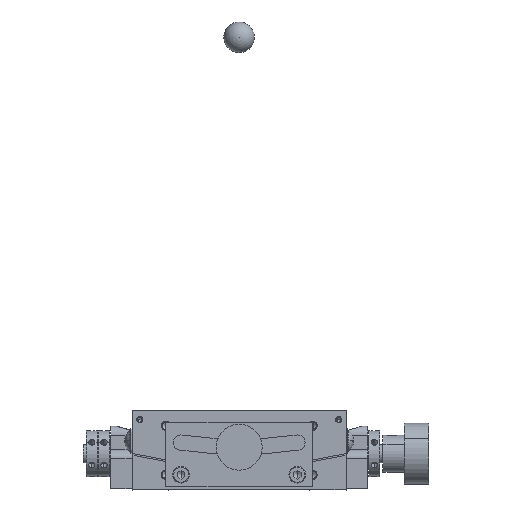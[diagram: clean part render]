
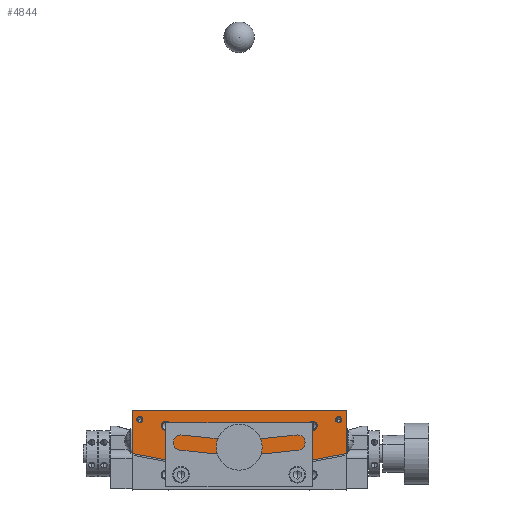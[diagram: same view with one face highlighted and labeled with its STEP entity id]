
A CAD part, front view. The second image highlights one B-rep face of the part: STEP entity #4844.
In plain terms, the highlighted planar face has unit normal (0, -1, 0) as drawn and (-1, 0, 0) by its records, which use the part's own axes.
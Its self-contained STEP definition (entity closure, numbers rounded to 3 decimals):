
#1241 = ORIENTED_EDGE ( 'NONE', *, *, #5952, .F. ) ;
#1242 = ORIENTED_EDGE ( 'NONE', *, *, #36356, .F. ) ;
#1243 = ORIENTED_EDGE ( 'NONE', *, *, #38115, .F. ) ;
#1244 = ORIENTED_EDGE ( 'NONE', *, *, #5953, .F. ) ;
#1245 = ORIENTED_EDGE ( 'NONE', *, *, #37956, .F. ) ;
#1246 = ORIENTED_EDGE ( 'NONE', *, *, #5954, .F. ) ;
#1247 = ORIENTED_EDGE ( 'NONE', *, *, #37859, .F. ) ;
#1248 = ORIENTED_EDGE ( 'NONE', *, *, #5955, .F. ) ;
#1249 = ORIENTED_EDGE ( 'NONE', *, *, #5956, .F. ) ;
#1250 = ORIENTED_EDGE ( 'NONE', *, *, #5957, .F. ) ;
#1251 = ORIENTED_EDGE ( 'NONE', *, *, #5958, .F. ) ;
#1252 = ORIENTED_EDGE ( 'NONE', *, *, #5959, .F. ) ;
#1253 = ORIENTED_EDGE ( 'NONE', *, *, #38063, .F. ) ;
#1254 = ORIENTED_EDGE ( 'NONE', *, *, #5960, .F. ) ;
#3174 = AXIS2_PLACEMENT_3D ( 'NONE', #44627, #44628, #44629 ) ;
#3178 = CIRCLE ( 'NONE', #3174, 1. ) ;
#3180 = VECTOR ( 'NONE', #44626, 1000. ) ;
#3181 = VECTOR ( 'NONE', #44623, 1000. ) ;
#3183 = AXIS2_PLACEMENT_3D ( 'NONE', #44617, #44618, #44619 ) ;
#3186 = VECTOR ( 'NONE', #44620, 1000. ) ;
#3188 = AXIS2_PLACEMENT_3D ( 'NONE', #44614, #44615, #44616 ) ;
#3191 = AXIS2_PLACEMENT_3D ( 'NONE', #44610, #44611, #44612 ) ;
#3193 = CIRCLE ( 'NONE', #3183, 140.5 ) ;
#3195 = AXIS2_PLACEMENT_3D ( 'NONE', #44607, #44608, #44609 ) ;
#3198 = CIRCLE ( 'NONE', #3188, 1.5 ) ;
#3200 = CIRCLE ( 'NONE', #3191, 1.5 ) ;
#3201 = AXIS2_PLACEMENT_3D ( 'NONE', #44604, #44605, #44606 ) ;
#3203 = CIRCLE ( 'NONE', #3195, 1. ) ;
#3205 = CIRCLE ( 'NONE', #3201, 5. ) ;
#4844 = ADVANCED_FACE ( 'NONE', ( #18057, #18043, #18063, #18067, #18055, #18059 ), #18071, .F. ) ;
#5952 = EDGE_CURVE ( 'NONE', #19721, #19723, #3205, .T. ) ;
#5953 = EDGE_CURVE ( 'NONE', #9188, #9189, #3203, .T. ) ;
#5954 = EDGE_CURVE ( 'NONE', #9163, #9164, #3200, .T. ) ;
#5955 = EDGE_CURVE ( 'NONE', #9149, #9150, #3198, .T. ) ;
#5956 = EDGE_CURVE ( 'NONE', #8832, #8829, #3193, .T. ) ;
#5957 = EDGE_CURVE ( 'NONE', #8829, #8886, #44603, .T. ) ;
#5958 = EDGE_CURVE ( 'NONE', #8886, #8844, #44621, .T. ) ;
#5959 = EDGE_CURVE ( 'NONE', #8844, #8832, #44624, .T. ) ;
#5960 = EDGE_CURVE ( 'NONE', #9180, #9181, #3178, .T. ) ;
#8829 = VERTEX_POINT ( 'NONE', #66567 ) ;
#8832 = VERTEX_POINT ( 'NONE', #66570 ) ;
#8844 = VERTEX_POINT ( 'NONE', #66582 ) ;
#8886 = VERTEX_POINT ( 'NONE', #66624 ) ;
#9149 = VERTEX_POINT ( 'NONE', #53525 ) ;
#9150 = VERTEX_POINT ( 'NONE', #53527 ) ;
#9163 = VERTEX_POINT ( 'NONE', #53553 ) ;
#9164 = VERTEX_POINT ( 'NONE', #53555 ) ;
#9180 = VERTEX_POINT ( 'NONE', #53587 ) ;
#9181 = VERTEX_POINT ( 'NONE', #53589 ) ;
#9188 = VERTEX_POINT ( 'NONE', #53603 ) ;
#9189 = VERTEX_POINT ( 'NONE', #53605 ) ;
#10080 = CARTESIAN_POINT ( 'NONE',  ( -35., -5., -12. ) ) ;
#10081 = CARTESIAN_POINT ( 'NONE',  ( -35., 5., -12. ) ) ;
#11986 = EDGE_LOOP ( 'NONE', ( #1242, #1241 ) ) ;
#11988 = EDGE_LOOP ( 'NONE', ( #1248, #1247 ) ) ;
#11989 = EDGE_LOOP ( 'NONE', ( #1254, #1253 ) ) ;
#11990 = EDGE_LOOP ( 'NONE', ( #1246, #1245 ) ) ;
#12003 = EDGE_LOOP ( 'NONE', ( #1244, #1243 ) ) ;
#12052 = EDGE_LOOP ( 'NONE', ( #1252, #1251, #1250, #1249 ) ) ;
#18043 = FACE_OUTER_BOUND ( 'NONE', #12052, .T. ) ;
#18055 = FACE_BOUND ( 'NONE', #12003, .T. ) ;
#18057 = FACE_BOUND ( 'NONE', #11989, .T. ) ;
#18059 = FACE_BOUND ( 'NONE', #11986, .T. ) ;
#18063 = FACE_BOUND ( 'NONE', #11988, .T. ) ;
#18065 = CARTESIAN_POINT ( 'NONE',  ( -35., 0., 122. ) ) ;
#18067 = FACE_BOUND ( 'NONE', #11990, .T. ) ;
#18071 = PLANE ( 'NONE',  #61716 ) ;
#18073 = DIRECTION ( 'NONE',  ( 1., 0., 0. ) ) ;
#18075 = DIRECTION ( 'NONE',  ( 0., -1., 0. ) ) ;
#19721 = VERTEX_POINT ( 'NONE', #10080 ) ;
#19723 = VERTEX_POINT ( 'NONE', #10081 ) ;
#36356 = EDGE_CURVE ( 'NONE', #19723, #19721, #47643, .T. ) ;
#37859 = EDGE_CURVE ( 'NONE', #9150, #9149, #48346, .T. ) ;
#37956 = EDGE_CURVE ( 'NONE', #9164, #9163, #48380, .T. ) ;
#38063 = EDGE_CURVE ( 'NONE', #9181, #9180, #48410, .T. ) ;
#38115 = EDGE_CURVE ( 'NONE', #9189, #9188, #47835, .T. ) ;
#44603 = LINE ( 'NONE', #44613, #3186 ) ;
#44604 = CARTESIAN_POINT ( 'NONE',  ( -35., 0., -12. ) ) ;
#44605 = DIRECTION ( 'NONE',  ( -1., 0., 0. ) ) ;
#44606 = DIRECTION ( 'NONE',  ( 0., 1., 0. ) ) ;
#44607 = CARTESIAN_POINT ( 'NONE',  ( -35., -32.5, -3. ) ) ;
#44608 = DIRECTION ( 'NONE',  ( -1., 0., 0. ) ) ;
#44609 = DIRECTION ( 'NONE',  ( 0., -1., 0. ) ) ;
#44610 = CARTESIAN_POINT ( 'NONE',  ( -35., -24., -5. ) ) ;
#44611 = DIRECTION ( 'NONE',  ( -1., 0., 0. ) ) ;
#44612 = DIRECTION ( 'NONE',  ( 0., -0.362, -0.932 ) ) ;
#44613 = CARTESIAN_POINT ( 'NONE',  ( -35., 35., -14.071 ) ) ;
#44614 = CARTESIAN_POINT ( 'NONE',  ( -35., 24., -5. ) ) ;
#44615 = DIRECTION ( 'NONE',  ( -1., 0., 0. ) ) ;
#44616 = DIRECTION ( 'NONE',  ( 0., 0.362, -0.932 ) ) ;
#44617 = CARTESIAN_POINT ( 'NONE',  ( -35., 0., 122. ) ) ;
#44618 = DIRECTION ( 'NONE',  ( 1., 0., 0. ) ) ;
#44619 = DIRECTION ( 'NONE',  ( 0., -1., 0. ) ) ;
#44620 = DIRECTION ( 'NONE',  ( 0., 0., 1. ) ) ;
#44621 = LINE ( 'NONE', #44622, #3181 ) ;
#44622 = CARTESIAN_POINT ( 'NONE',  ( -35., 35., 0. ) ) ;
#44623 = DIRECTION ( 'NONE',  ( 0., -1., 0. ) ) ;
#44624 = LINE ( 'NONE', #44625, #3180 ) ;
#44625 = CARTESIAN_POINT ( 'NONE',  ( -35., -35., 0. ) ) ;
#44626 = DIRECTION ( 'NONE',  ( 0., 0., -1. ) ) ;
#44627 = CARTESIAN_POINT ( 'NONE',  ( -35., 32.5, -3. ) ) ;
#44628 = DIRECTION ( 'NONE',  ( -1., 0., 0. ) ) ;
#44629 = DIRECTION ( 'NONE',  ( 0., -1., 0. ) ) ;
#46184 = CARTESIAN_POINT ( 'NONE',  ( -35., 24., -5. ) ) ;
#46185 = DIRECTION ( 'NONE',  ( -1., 0., 0. ) ) ;
#46186 = DIRECTION ( 'NONE',  ( 0., 0.362, -0.932 ) ) ;
#46262 = CARTESIAN_POINT ( 'NONE',  ( -35., -24., -5. ) ) ;
#46263 = DIRECTION ( 'NONE',  ( -1., 0., 0. ) ) ;
#46264 = DIRECTION ( 'NONE',  ( 0., -0.362, -0.932 ) ) ;
#47207 = CARTESIAN_POINT ( 'NONE',  ( -35., 0., -12. ) ) ;
#47208 = DIRECTION ( 'NONE',  ( -1., 0., 0. ) ) ;
#47209 = DIRECTION ( 'NONE',  ( 0., 1., 0. ) ) ;
#47643 = CIRCLE ( 'NONE', #47650, 5. ) ;
#47650 = AXIS2_PLACEMENT_3D ( 'NONE', #47207, #47208, #47209 ) ;
#47835 = CIRCLE ( 'NONE', #47839, 1. ) ;
#47839 = AXIS2_PLACEMENT_3D ( 'NONE', #52146, #52148, #52150 ) ;
#48346 = CIRCLE ( 'NONE', #48350, 1.5 ) ;
#48350 = AXIS2_PLACEMENT_3D ( 'NONE', #46184, #46185, #46186 ) ;
#48380 = CIRCLE ( 'NONE', #48384, 1.5 ) ;
#48384 = AXIS2_PLACEMENT_3D ( 'NONE', #46262, #46263, #46264 ) ;
#48404 = AXIS2_PLACEMENT_3D ( 'NONE', #52073, #52075, #52077 ) ;
#48410 = CIRCLE ( 'NONE', #48404, 1. ) ;
#52073 = CARTESIAN_POINT ( 'NONE',  ( -35., 32.5, -3. ) ) ;
#52075 = DIRECTION ( 'NONE',  ( -1., 0., 0. ) ) ;
#52077 = DIRECTION ( 'NONE',  ( 0., -1., 0. ) ) ;
#52146 = CARTESIAN_POINT ( 'NONE',  ( -35., -32.5, -3. ) ) ;
#52148 = DIRECTION ( 'NONE',  ( -1., 0., 0. ) ) ;
#52150 = DIRECTION ( 'NONE',  ( 0., -1., 0. ) ) ;
#53525 = CARTESIAN_POINT ( 'NONE',  ( -35., 24.544, -6.398 ) ) ;
#53527 = CARTESIAN_POINT ( 'NONE',  ( -35., 23.456, -3.602 ) ) ;
#53553 = CARTESIAN_POINT ( 'NONE',  ( -35., -24.544, -6.398 ) ) ;
#53555 = CARTESIAN_POINT ( 'NONE',  ( -35., -23.456, -3.602 ) ) ;
#53587 = CARTESIAN_POINT ( 'NONE',  ( -35., 31.5, -3. ) ) ;
#53589 = CARTESIAN_POINT ( 'NONE',  ( -35., 33.5, -3. ) ) ;
#53603 = CARTESIAN_POINT ( 'NONE',  ( -35., -33.5, -3. ) ) ;
#53605 = CARTESIAN_POINT ( 'NONE',  ( -35., -31.5, -3. ) ) ;
#61716 = AXIS2_PLACEMENT_3D ( 'NONE', #18065, #18073, #18075 ) ;
#66567 = CARTESIAN_POINT ( 'NONE',  ( -35., 35., -14.071 ) ) ;
#66570 = CARTESIAN_POINT ( 'NONE',  ( -35., -35., -14.071 ) ) ;
#66582 = CARTESIAN_POINT ( 'NONE',  ( -35., -35., 0. ) ) ;
#66624 = CARTESIAN_POINT ( 'NONE',  ( -35., 35., 0. ) ) ;
